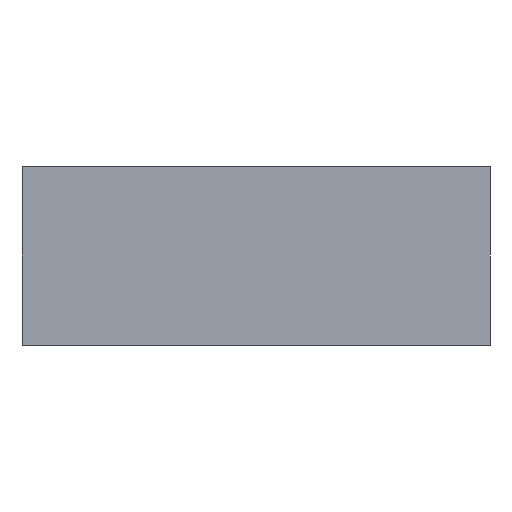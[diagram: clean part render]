
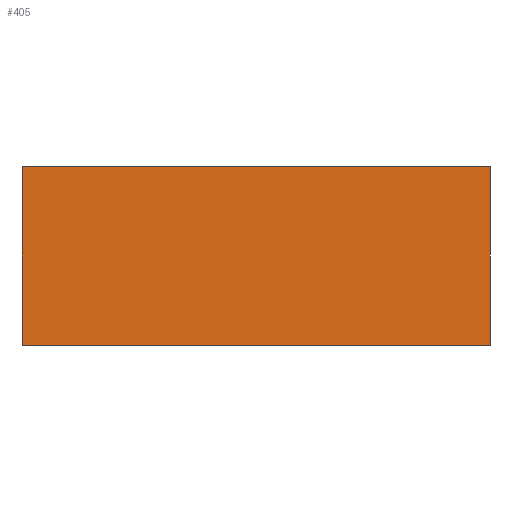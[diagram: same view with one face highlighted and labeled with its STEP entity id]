
A CAD part, front view. The second image highlights one B-rep face of the part: STEP entity #405.
In plain terms, the highlighted planar face has unit normal (0, -1, 0).
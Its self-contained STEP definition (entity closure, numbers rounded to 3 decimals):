
#34 = LINE ( 'NONE', #214, #36 ) ;
#36 = VECTOR ( 'NONE', #213, 1000. ) ;
#57 = LINE ( 'NONE', #382, #58 ) ;
#58 = VECTOR ( 'NONE', #391, 1000. ) ;
#59 = LINE ( 'NONE', #277, #60 ) ;
#60 = VECTOR ( 'NONE', #274, 1000. ) ;
#77 = FACE_OUTER_BOUND ( 'NONE', #488, .T. ) ;
#98 = EDGE_CURVE ( 'NONE', #205, #195, #518, .T. ) ;
#124 = AXIS2_PLACEMENT_3D ( 'NONE', #255, #279, #306 ) ;
#136 = EDGE_CURVE ( 'NONE', #205, #203, #34, .T. ) ;
#149 = EDGE_CURVE ( 'NONE', #203, #245, #57, .T. ) ;
#151 = EDGE_CURVE ( 'NONE', #195, #245, #59, .T. ) ;
#165 = DIRECTION ( 'NONE',  ( 0., 0., 1. ) ) ;
#167 = CARTESIAN_POINT ( 'NONE',  ( -88.5, -5.5, -17.9 ) ) ;
#179 = CARTESIAN_POINT ( 'NONE',  ( -88.5, -5.5, -17.9 ) ) ;
#189 = CARTESIAN_POINT ( 'NONE',  ( -88.5, -5.5, 49.7 ) ) ;
#195 = VERTEX_POINT ( 'NONE', #189 ) ;
#203 = VERTEX_POINT ( 'NONE', #265 ) ;
#205 = VERTEX_POINT ( 'NONE', #179 ) ;
#213 = DIRECTION ( 'NONE',  ( 1., 0., 0. ) ) ;
#214 = CARTESIAN_POINT ( 'NONE',  ( -88.5, -5.5, -17.9 ) ) ;
#245 = VERTEX_POINT ( 'NONE', #362 ) ;
#255 = CARTESIAN_POINT ( 'NONE',  ( -88.5, -5.5, -17.9 ) ) ;
#265 = CARTESIAN_POINT ( 'NONE',  ( 88.5, -5.5, -17.9 ) ) ;
#274 = DIRECTION ( 'NONE',  ( 1., 0., 0. ) ) ;
#277 = CARTESIAN_POINT ( 'NONE',  ( -88.5, -5.5, 49.7 ) ) ;
#279 = DIRECTION ( 'NONE',  ( 0., 1., 0. ) ) ;
#306 = DIRECTION ( 'NONE',  ( 0., 0., -1. ) ) ;
#346 = PLANE ( 'NONE',  #124 ) ;
#362 = CARTESIAN_POINT ( 'NONE',  ( 88.5, -5.5, 49.7 ) ) ;
#382 = CARTESIAN_POINT ( 'NONE',  ( 88.5, -5.5, -17.9 ) ) ;
#391 = DIRECTION ( 'NONE',  ( 0., 0., 1. ) ) ;
#405 = ADVANCED_FACE ( 'NONE', ( #77 ), #346, .F. ) ;
#461 = ORIENTED_EDGE ( 'NONE', *, *, #136, .T. ) ;
#462 = ORIENTED_EDGE ( 'NONE', *, *, #98, .F. ) ;
#463 = ORIENTED_EDGE ( 'NONE', *, *, #151, .F. ) ;
#466 = ORIENTED_EDGE ( 'NONE', *, *, #149, .T. ) ;
#488 = EDGE_LOOP ( 'NONE', ( #466, #463, #462, #461 ) ) ;
#513 = VECTOR ( 'NONE', #165, 1000. ) ;
#518 = LINE ( 'NONE', #167, #513 ) ;
